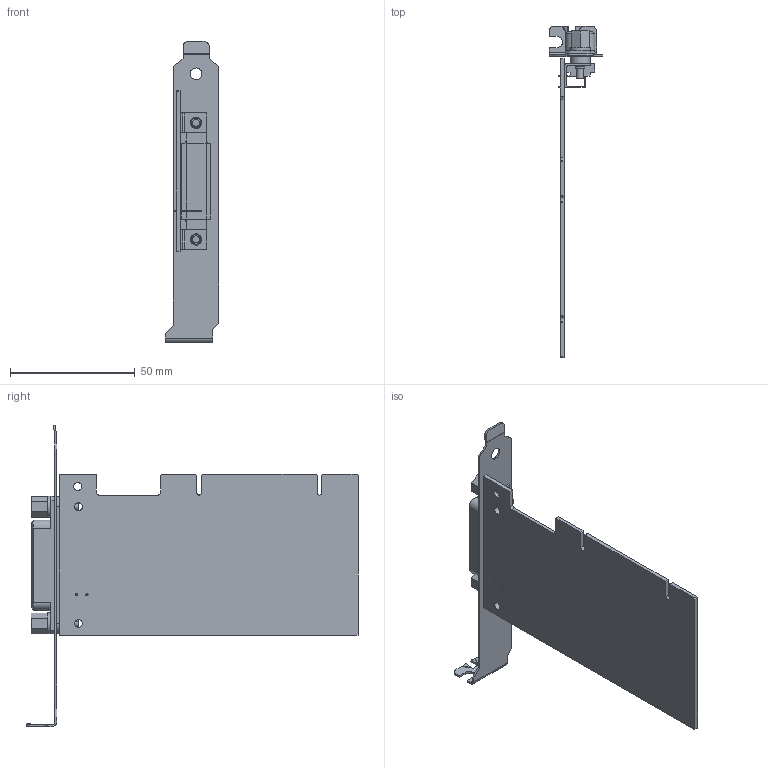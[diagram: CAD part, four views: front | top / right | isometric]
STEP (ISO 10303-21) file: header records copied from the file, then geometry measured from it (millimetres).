
FILE_DESCRIPTION((''),'2;1');
FILE_NAME('CU_PCI-GPIB','2011-07-06T',('stgill'),(''),'PRO/ENGINEER BY PARAMETRIC TECHNOLOGY CORPORATION, 2010230','PRO/ENGINEER BY PARAMETRIC TECHNOLOGY CORPORATION, 2010230','');
FILE_SCHEMA(('CONFIG_CONTROL_DESIGN'));
Length unit declared in the file: inch
Products named in the file (1): CU_PCI-GPIB
Bounding box: 21.59 x 133.16 x 120.8 mm (x, y, z)
Volume: 20098.8 mm3; surface area: 25752 mm2
Topology: 1 solids, 1 shells, 288 faces, 760 edges, 487 vertices
Faces by surface type: plane 189, cylinder 83, torus 8, bspline 4, cone 4
Entity records: 9023 total; most frequent: CARTESIAN_POINT 1655, DIRECTION 1535, ORIENTED_EDGE 1520, EDGE_CURVE 760, VECTOR 537, LINE 537, AXIS2_PLACEMENT_3D 499, VERTEX_POINT 487
